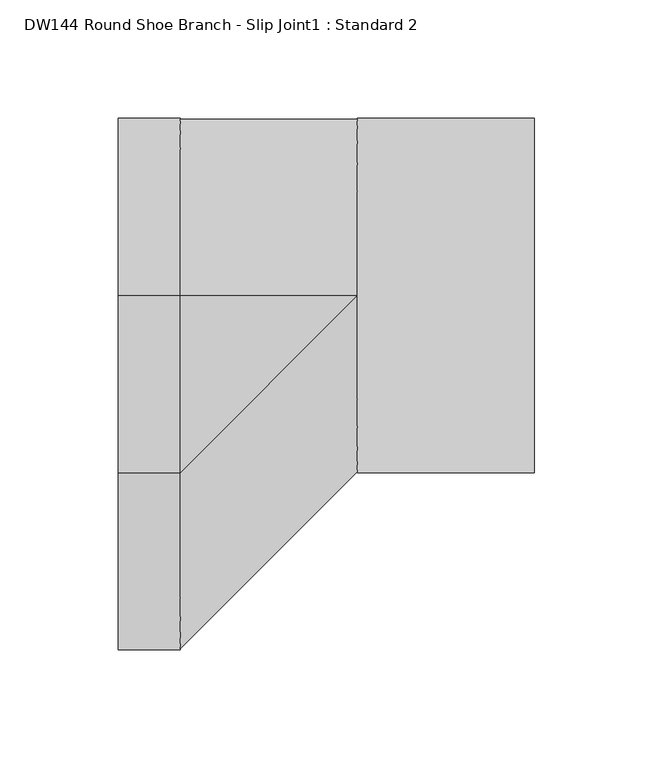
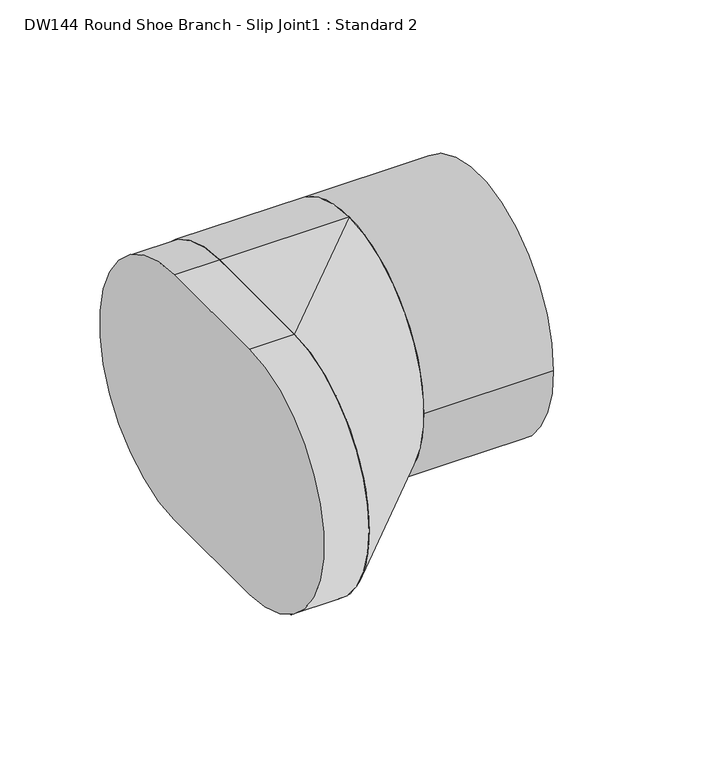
"""IFC4 building model written with IfcOpenShell, lengths in millimetres: duct fitting geometry, DW144 Round Shoe Branch - Slip Joint1 : Standard 2."""

from ifc_helpers import new_model, si_unit, point, frame, frame_2d, origin, origin_2d, place, context, project, spatial, polyline, circle_curve, trimmed, segment, composite_curve, outline, extrude, source, transform, mapped, element, save
from ifc_brep_helpers import plane_surface, cylinder_surface, extruded_surface, advanced_brep


def dw144_round_shoe_branch_slip_joint1_standard_2_9149b7ab(model_context):
    return source(origin(), model_context, "Body", "SolidModel", [
        extrude(outline(composite_curve([segment(trimmed(circle_curve(origin_2d(), 75.0), [point((-75.0, 0.0))], [point((75.0, 0.0))], False, "CARTESIAN"), True, "CONTINUOUS"), segment(trimmed(circle_curve(origin_2d(), 75.0), [point((75.0, 0.0))], [point((-75.0, 0.0))], False, "CARTESIAN"), True, "CONTINUOUS")], self_intersect=False)), frame((75.0, 0.0, 0.0), z_axis=(1.0, 0.0, 0.0), x_axis=(0.0, 1.0, 0.0)), (0.0, 0.0, 1.0), 75.0),
        advanced_brep(
        [(75.0, 0.0, -75.0), (75.0, 0.0, 75.0), (0.0, 0.0, -75.0), (0.0, -75.0, -75.0), (0.0, -75.0, 75.0), (0.0, 0.0, 75.0)],
        [
            (0, 1, circle_curve(frame((75.0, 0.0, 0.0), z_axis=(1.0, 0.0, 0.0), x_axis=(0.0, 1.0, 0.0)), 75.0)),
            (1, 0, circle_curve(frame((75.0, 0.0, 0.0), z_axis=(1.0, 0.0, 0.0), x_axis=(0.0, 1.0, 0.0)), 75.0)),
            (2, 3),
            (3, 4, circle_curve(frame((0.0, -75.0, 0.0), z_axis=(-1.0, 0.0, 0.0), x_axis=(0.0, 1.0, 0.0)), 75.0)),
            (4, 5),
            (5, 2, circle_curve(frame((0.0, 0.0, 0.0), z_axis=(-1.0, 0.0, 0.0), x_axis=(0.0, 1.0, 0.0)), 75.0)),
            (5, 1),
            (0, 2),
            (4, 1),
            (3, 0),
        ],
        [
            plane_surface(frame((75.0, 0.0, 0.0), z_axis=(1.0, 0.0, 0.0), x_axis=(0.0, 1.0, 0.0))),
            plane_surface(frame((0.0, -37.5, 0.0), z_axis=(-1.0, 0.0, 0.0), x_axis=(0.0, 1.0, 0.0))),
            cylinder_surface(frame((0.0, 0.0, 0.0), z_axis=(1.0, 0.0, 0.0), x_axis=(0.0, 1.0, 0.0)), 75.0),
            plane_surface(frame((0.0, -37.5, 75.0), z_axis=(0.0, 0.0, 1.0), x_axis=(0.0, -1.0, 0.0))),
            extruded_surface(trimmed(circle_curve(frame((0.0, -75.0, 0.0), z_axis=(1.0, 0.0, 0.0), x_axis=(0.0, 1.0, 0.0)), 75.0), [point((0.0, -75.0, 75.0))], [point((0.0, -75.0, -75.0))], True, "CARTESIAN"), (75.0, 75.0, 0.0), 106.06601717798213),
            plane_surface(frame((0.0, -37.5, -75.0), z_axis=(0.0, 0.0, -1.0), x_axis=(0.0, 1.0, 0.0))),
        ],
        [
            (0, [[1, 2]]),
            (1, [[3, 4, 5, 6]]),
            (2, [[-6, 7, -1, 8]]),
            (3, [[-5, 9, -7]]),
            (4, [[-4, 10, -2, -9]]),
            (5, [[-3, -8, -10]]),
        ],
    ),
        extrude(outline(composite_curve([segment(polyline([(0.0, -75.0), (-75.0, -75.0)]), True, "CONTINUOUS"), segment(trimmed(circle_curve(frame_2d((-75.0, 0.0)), 75.0), [point((-75.0, -75.0))], [point((-75.0, 75.0))], False, "CARTESIAN"), True, "CONTINUOUS"), segment(polyline([(-75.0, 75.0), (0.0, 75.0)]), True, "CONTINUOUS"), segment(trimmed(circle_curve(origin_2d(), 75.0), [point((0.0, 75.0))], [point((0.0, -75.0))], False, "CARTESIAN"), True, "CONTINUOUS")], self_intersect=False)), frame((-26.1921894, 0.0, 0.0), z_axis=(1.0, 0.0, 0.0), x_axis=(0.0, 1.0, 0.0)), (0.0, 0.0, 1.0), 26.1921894),
    ])


if __name__ == "__main__":
    model = new_model("IFC4")
    model_context = context("Model", 3, world=origin())
    ifc_project = project(units=[si_unit("LENGTHUNIT", "METRE", prefix="MILLI")], contexts=[model_context])
    site = spatial("IfcSite", under=ifc_project)
    building = spatial("IfcBuilding", under=site)
    placement = place(None, origin())
    dw144_round_shoe_branch_slip_joint1_standard_2_shape = dw144_round_shoe_branch_slip_joint1_standard_2_9149b7ab(model_context)
    element("IfcDuctFitting", 1, ObjectType="DW144 Round Shoe Branch - Slip Joint1 : Standard 2", at=placement, inside=building, context=model_context, shape_type="MappedRepresentation", body=[
        mapped(dw144_round_shoe_branch_slip_joint1_standard_2_shape, transform((0.0, 0.0, 0.0), x_axis=(1.0, 0.0, 0.0), y_axis=(0.0, 1.0, 0.0), z_axis=(0.0, 0.0, 1.0))),
    ])
    save(model, "model.ifc")
